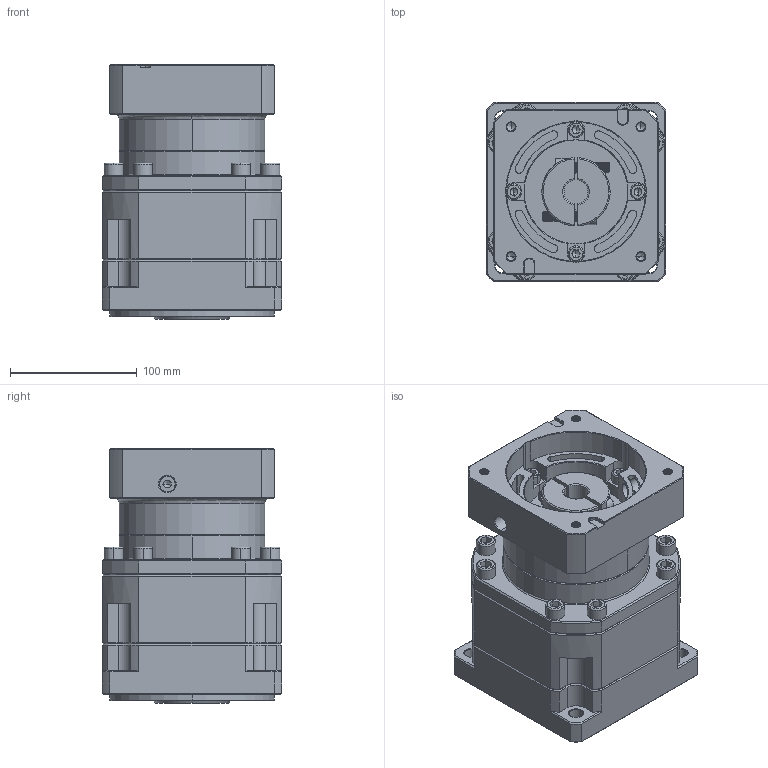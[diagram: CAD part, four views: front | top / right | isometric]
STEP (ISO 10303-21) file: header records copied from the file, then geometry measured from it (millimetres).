
FILE_DESCRIPTION (( 'STEP AP214' ), '1' );
FILE_NAME ('ZB142A-K35-L2-P2-19-110-145-M8.step', '2023-09-02T02:53:01', ( '' ), ( '' ), 'SwSTEP 2.0', 'SolidWorks 2016', '' );
FILE_SCHEMA (( 'AUTOMOTIVE_DESIGN' ));
Length unit declared in the file: millimetre
Products named in the file (1): ZB142A-K35-L2-P2-19-110-145-M8
Bounding box: 142 x 142 x 201.2 mm (x, y, z)
Volume: 2796390.9 mm3; surface area: 249749 mm2
Topology: 6 solids, 6 shells, 2541 faces, 6688 edges, 4266 vertices
Faces by surface type: plane 1224, cylinder 480, bspline 400, cone 382, torus 55
Entity records: 132604 total; most frequent: CARTESIAN_POINT 45019, ORIENTED_EDGE 13272, DIRECTION 10922, EDGE_CURVE 6636, VERTEX_POINT 4266, LINE 4228, VECTOR 4228, AXIS2_PLACEMENT_3D 3347
